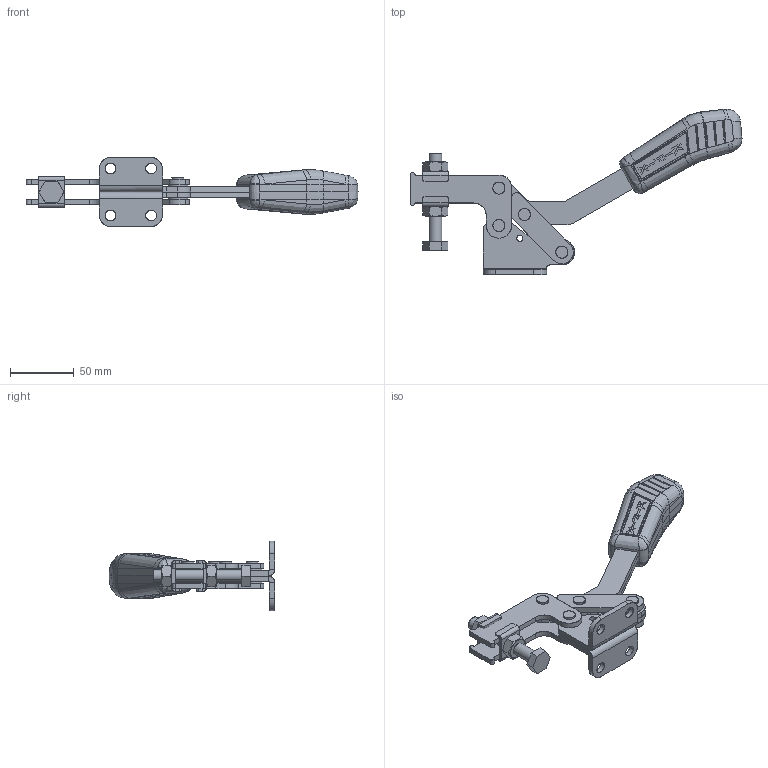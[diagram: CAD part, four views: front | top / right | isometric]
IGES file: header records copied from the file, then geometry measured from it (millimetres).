
Start section: SolidWorks IGES file using analytic representation for surfaces
Global section: file name: C:\Projetos\Grampos\KF-541\KF-541 DI\KF-541 DI.IGS; native system: SolidWorks 2013; preprocessor: SolidWorks 2013; author: Ricardo; date: 140818.141725; units: millimetre
Bounding box: 261.3 x 130.36 x 55 mm (x, y, z)
Surface area: 81490.6 mm2 (no closed solid volume)
Topology: 0 solids, 0 shells, 810 faces, 9520 edges, 9489 vertices
Faces by surface type: bspline 436, revolution 374
